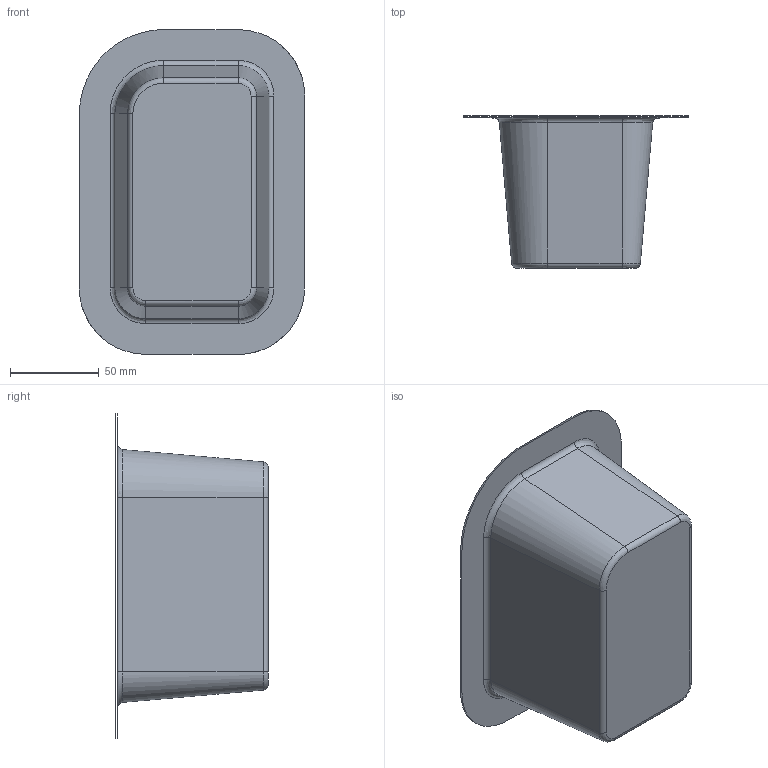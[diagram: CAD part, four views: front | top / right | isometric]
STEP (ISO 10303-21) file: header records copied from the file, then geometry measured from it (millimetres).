
FILE_DESCRIPTION(('CATIA V5 STEP Exchange'),'2;1');
FILE_NAME('C:\_Andres\UNIVERSIDAD\IQS\ASIGNATURAS\DAO\Controles\1617\c3\2inicio\Ribera_Armengol_control3_v28.stp','2017-02-17T14:22:12+00:00',('none'),('none'),'CATIA Version 5-6 Release 2014 SP1 HF18','CATIA V5 STEP AP203','none');
FILE_SCHEMA(('CONFIG_CONTROL_DESIGN'));
Length unit declared in the file: millimetre
Products named in the file (1): Ribera_Armengol_control3_v28
Bounding box: 126.82 x 85.68 x 182.82 mm (x, y, z)
Surface area: 73937.5 mm2 (no closed solid volume)
Topology: 0 solids, 2 shells, 27 faces, 80 edges, 57 vertices
Faces by surface type: bspline 16, cylinder 8, plane 3
Entity records: 1925 total; most frequent: CARTESIAN_POINT 1329, ORIENTED_EDGE 128, EDGE_CURVE 72, B_SPLINE_CURVE_WITH_KNOTS 54, DIRECTION 50, VERTEX_POINT 48, EDGE_LOOP 28, ADVANCED_FACE 27
